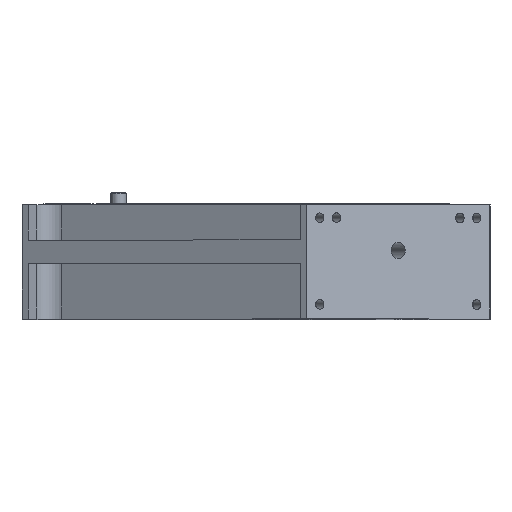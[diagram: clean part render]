
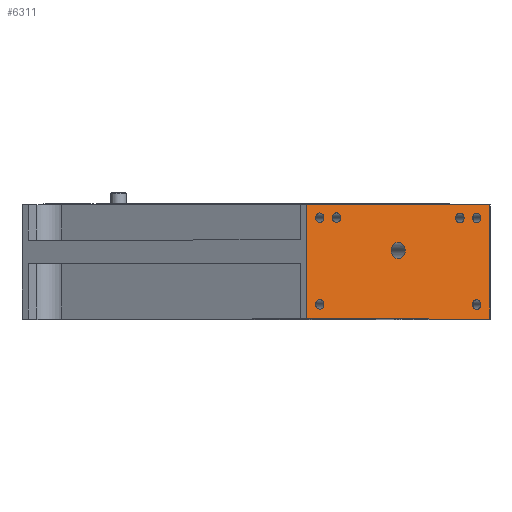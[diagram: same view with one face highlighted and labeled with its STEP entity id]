
A CAD part, top view. The second image highlights one B-rep face of the part: STEP entity #6311.
In plain terms, the highlighted planar face has unit normal (0.5, 0, 0.866).
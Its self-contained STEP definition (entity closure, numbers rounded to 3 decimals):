
#1426 = EDGE_LOOP ( 'NONE', ( #27224 ) ) ;
#1826 = CARTESIAN_POINT ( 'NONE',  ( 17.464, 0., 140.248 ) ) ;
#2122 = DIRECTION ( 'NONE',  ( 0., -1., 0. ) ) ;
#2136 = CARTESIAN_POINT ( 'NONE',  ( 17.464, 60., 140.248 ) ) ;
#2159 = LINE ( 'NONE', #2136, #4803 ) ;
#3834 = EDGE_CURVE ( 'NONE', #19492, #19492, #23764, .T. ) ;
#3925 = AXIS2_PLACEMENT_3D ( 'NONE', #38755, #38715, #38806 ) ;
#4803 = VECTOR ( 'NONE', #2122, 1000. ) ;
#5066 = EDGE_CURVE ( 'NONE', #36977, #11990, #37648, .T. ) ;
#5535 = DIRECTION ( 'NONE',  ( 0.866, 0., -0.5 ) ) ;
#5545 = DIRECTION ( 'NONE',  ( 0.5, 0., 0.866 ) ) ;
#5586 = CARTESIAN_POINT ( 'NONE',  ( 24.392, 7.5, 136.248 ) ) ;
#5788 = EDGE_CURVE ( 'NONE', #19241, #19241, #26014, .T. ) ;
#5861 = DIRECTION ( 'NONE',  ( 0.866, 0., -0.5 ) ) ;
#5864 = CARTESIAN_POINT ( 'NONE',  ( 17.464, 0., 140.248 ) ) ;
#5881 = EDGE_LOOP ( 'NONE', ( #27575 ) ) ;
#5907 = LINE ( 'NONE', #5864, #16603 ) ;
#6185 = AXIS2_PLACEMENT_3D ( 'NONE', #27604, #27551, #27510 ) ;
#6311 = ADVANCED_FACE ( 'NONE', ( #21193, #21178, #21134, #21125, #21088, #21084, #21033, #20983 ), #20966, .F. ) ;
#6844 = DIRECTION ( 'NONE',  ( -0.866, 0., 0.5 ) ) ;
#6930 = EDGE_CURVE ( 'NONE', #18907, #18907, #34852, .T. ) ;
#9115 = EDGE_CURVE ( 'NONE', #18521, #18521, #31273, .T. ) ;
#10039 = CARTESIAN_POINT ( 'NONE',  ( 112.726, 59.5, 85.248 ) ) ;
#11155 = EDGE_LOOP ( 'NONE', ( #28019, #27897, #28127, #28307 ) ) ;
#11299 = AXIS2_PLACEMENT_3D ( 'NONE', #34448, #34401, #34387 ) ;
#11363 = AXIS2_PLACEMENT_3D ( 'NONE', #5586, #5545, #5535 ) ;
#11990 = VERTEX_POINT ( 'NONE', #36479 ) ;
#12827 = CIRCLE ( 'NONE', #38728, 4.25 ) ;
#12979 = DIRECTION ( 'NONE',  ( 0.866, 0., -0.5 ) ) ;
#13018 = CARTESIAN_POINT ( 'NONE',  ( 17.464, 59.5, 140.248 ) ) ;
#13045 = LINE ( 'NONE', #13018, #36339 ) ;
#13351 = VECTOR ( 'NONE', #37548, 1000. ) ;
#13435 = CARTESIAN_POINT ( 'NONE',  ( 26.557, 7.5, 134.998 ) ) ;
#13442 = DIRECTION ( 'NONE',  ( 0.866, 0., -0.5 ) ) ;
#13451 = VERTEX_POINT ( 'NONE', #13435 ) ;
#13458 = DIRECTION ( 'NONE',  ( 0.5, 0., 0.866 ) ) ;
#13474 = CARTESIAN_POINT ( 'NONE',  ( 97.138, 52.5, 94.248 ) ) ;
#14747 = EDGE_CURVE ( 'NONE', #17613, #17613, #37042, .T. ) ;
#14933 = AXIS2_PLACEMENT_3D ( 'NONE', #13474, #13458, #13442 ) ;
#16409 = AXIS2_PLACEMENT_3D ( 'NONE', #20950, #20900, #6844 ) ;
#16603 = VECTOR ( 'NONE', #5861, 1000. ) ;
#17164 = CARTESIAN_POINT ( 'NONE',  ( 68.776, 35.5, 110.623 ) ) ;
#17175 = VERTEX_POINT ( 'NONE', #17164 ) ;
#17480 = EDGE_LOOP ( 'NONE', ( #26998 ) ) ;
#17483 = EDGE_CURVE ( 'NONE', #17175, #17175, #12827, .T. ) ;
#17584 = CARTESIAN_POINT ( 'NONE',  ( 107.963, 52.5, 87.998 ) ) ;
#17613 = VERTEX_POINT ( 'NONE', #17584 ) ;
#18510 = CARTESIAN_POINT ( 'NONE',  ( 35.244, 52.5, 129.982 ) ) ;
#18521 = VERTEX_POINT ( 'NONE', #18510 ) ;
#18895 = CARTESIAN_POINT ( 'NONE',  ( 99.33, 52.5, 92.982 ) ) ;
#18907 = VERTEX_POINT ( 'NONE', #18895 ) ;
#19201 = CARTESIAN_POINT ( 'NONE',  ( 107.963, 7.5, 87.998 ) ) ;
#19241 = VERTEX_POINT ( 'NONE', #19201 ) ;
#19445 = DIRECTION ( 'NONE',  ( 0.866, 0., -0.5 ) ) ;
#19481 = CARTESIAN_POINT ( 'NONE',  ( 26.557, 52.5, 134.998 ) ) ;
#19488 = DIRECTION ( 'NONE',  ( 0.5, 0., 0.866 ) ) ;
#19492 = VERTEX_POINT ( 'NONE', #19481 ) ;
#19517 = CARTESIAN_POINT ( 'NONE',  ( 65.095, 35.5, 112.748 ) ) ;
#20900 = DIRECTION ( 'NONE',  ( -0.5, 0., -0.866 ) ) ;
#20950 = CARTESIAN_POINT ( 'NONE',  ( 17.464, 60., 140.248 ) ) ;
#20966 = PLANE ( 'NONE',  #16409 ) ;
#20983 = FACE_OUTER_BOUND ( 'NONE', #11155, .T. ) ;
#21033 = FACE_BOUND ( 'NONE', #17480, .T. ) ;
#21084 = FACE_BOUND ( 'NONE', #1426, .T. ) ;
#21088 = FACE_BOUND ( 'NONE', #27869, .T. ) ;
#21125 = FACE_BOUND ( 'NONE', #32491, .T. ) ;
#21134 = FACE_BOUND ( 'NONE', #42159, .T. ) ;
#21178 = FACE_BOUND ( 'NONE', #44784, .T. ) ;
#21193 = FACE_BOUND ( 'NONE', #5881, .T. ) ;
#23764 = CIRCLE ( 'NONE', #3925, 2.5 ) ;
#26014 = CIRCLE ( 'NONE', #6185, 2.5 ) ;
#26703 = CARTESIAN_POINT ( 'NONE',  ( 17.464, 59.5, 140.248 ) ) ;
#26998 = ORIENTED_EDGE ( 'NONE', *, *, #17483, .F. ) ;
#27034 = VERTEX_POINT ( 'NONE', #26703 ) ;
#27224 = ORIENTED_EDGE ( 'NONE', *, *, #6930, .F. ) ;
#27281 = ORIENTED_EDGE ( 'NONE', *, *, #9115, .F. ) ;
#27452 = ORIENTED_EDGE ( 'NONE', *, *, #5788, .F. ) ;
#27510 = DIRECTION ( 'NONE',  ( 0.866, 0., -0.5 ) ) ;
#27515 = ORIENTED_EDGE ( 'NONE', *, *, #3834, .F. ) ;
#27551 = DIRECTION ( 'NONE',  ( 0.5, 0., 0.866 ) ) ;
#27568 = ORIENTED_EDGE ( 'NONE', *, *, #14747, .F. ) ;
#27575 = ORIENTED_EDGE ( 'NONE', *, *, #37385, .F. ) ;
#27604 = CARTESIAN_POINT ( 'NONE',  ( 105.798, 7.5, 89.248 ) ) ;
#27732 = AXIS2_PLACEMENT_3D ( 'NONE', #40167, #40154, #40141 ) ;
#27869 = EDGE_LOOP ( 'NONE', ( #27281 ) ) ;
#27897 = ORIENTED_EDGE ( 'NONE', *, *, #34236, .T. ) ;
#28019 = ORIENTED_EDGE ( 'NONE', *, *, #33607, .F. ) ;
#28127 = ORIENTED_EDGE ( 'NONE', *, *, #31690, .T. ) ;
#28307 = ORIENTED_EDGE ( 'NONE', *, *, #5066, .F. ) ;
#31273 = CIRCLE ( 'NONE', #11299, 2.531 ) ;
#31345 = CIRCLE ( 'NONE', #11363, 2.5 ) ;
#31690 = EDGE_CURVE ( 'NONE', #32029, #11990, #5907, .T. ) ;
#32029 = VERTEX_POINT ( 'NONE', #1826 ) ;
#32491 = EDGE_LOOP ( 'NONE', ( #27452 ) ) ;
#33607 = EDGE_CURVE ( 'NONE', #27034, #36977, #13045, .T. ) ;
#34236 = EDGE_CURVE ( 'NONE', #27034, #32029, #2159, .T. ) ;
#34387 = DIRECTION ( 'NONE',  ( 0.866, 0., -0.5 ) ) ;
#34401 = DIRECTION ( 'NONE',  ( 0.5, 0., 0.866 ) ) ;
#34448 = CARTESIAN_POINT ( 'NONE',  ( 33.052, 52.5, 131.248 ) ) ;
#34852 = CIRCLE ( 'NONE', #14933, 2.531 ) ;
#36339 = VECTOR ( 'NONE', #12979, 1000. ) ;
#36479 = CARTESIAN_POINT ( 'NONE',  ( 112.726, 0., 85.248 ) ) ;
#36977 = VERTEX_POINT ( 'NONE', #10039 ) ;
#37042 = CIRCLE ( 'NONE', #27732, 2.5 ) ;
#37385 = EDGE_CURVE ( 'NONE', #13451, #13451, #31345, .T. ) ;
#37548 = DIRECTION ( 'NONE',  ( 0., -1., 0. ) ) ;
#37599 = CARTESIAN_POINT ( 'NONE',  ( 112.726, 60., 85.248 ) ) ;
#37648 = LINE ( 'NONE', #37599, #13351 ) ;
#38715 = DIRECTION ( 'NONE',  ( 0.5, 0., 0.866 ) ) ;
#38728 = AXIS2_PLACEMENT_3D ( 'NONE', #19517, #19488, #19445 ) ;
#38755 = CARTESIAN_POINT ( 'NONE',  ( 24.392, 52.5, 136.248 ) ) ;
#38806 = DIRECTION ( 'NONE',  ( 0.866, 0., -0.5 ) ) ;
#40141 = DIRECTION ( 'NONE',  ( 0.866, 0., -0.5 ) ) ;
#40154 = DIRECTION ( 'NONE',  ( 0.5, 0., 0.866 ) ) ;
#40167 = CARTESIAN_POINT ( 'NONE',  ( 105.798, 52.5, 89.248 ) ) ;
#42159 = EDGE_LOOP ( 'NONE', ( #27568 ) ) ;
#44784 = EDGE_LOOP ( 'NONE', ( #27515 ) ) ;
